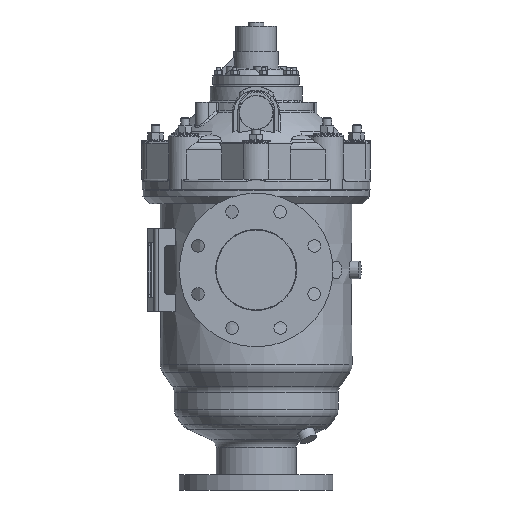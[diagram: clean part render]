
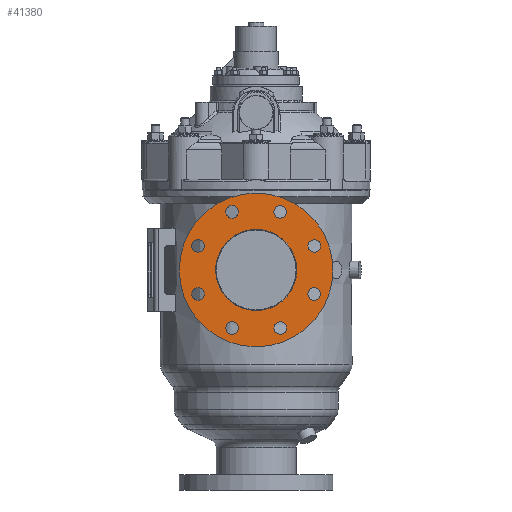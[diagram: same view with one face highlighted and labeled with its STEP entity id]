
A CAD part, front view. The second image highlights one B-rep face of the part: STEP entity #41380.
In plain terms, the highlighted planar face has unit normal (0, -1, 0) as drawn and (1, 0, 0) by its records, which use the part's own axes.
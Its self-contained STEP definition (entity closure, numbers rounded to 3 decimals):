
#41380 = ADVANCED_FACE( '', ( #50022, #50023, #50024, #50025, #50026, #50027, #50028, #50029, #50030, #50031 ), #50032, .F. );
#50022 = FACE_BOUND( '', #53701, .T. );
#50023 = FACE_BOUND( '', #53702, .T. );
#50024 = FACE_BOUND( '', #53703, .T. );
#50025 = FACE_BOUND( '', #53704, .T. );
#50026 = FACE_BOUND( '', #53705, .T. );
#50027 = FACE_BOUND( '', #53706, .T. );
#50028 = FACE_BOUND( '', #53707, .T. );
#50029 = FACE_BOUND( '', #53708, .T. );
#50030 = FACE_BOUND( '', #53709, .T. );
#50031 = FACE_OUTER_BOUND( '', #53710, .T. );
#50032 = PLANE( '', #53711 );
#53701 = EDGE_LOOP( '', ( #59142 ) );
#53702 = EDGE_LOOP( '', ( #59143 ) );
#53703 = EDGE_LOOP( '', ( #59144 ) );
#53704 = EDGE_LOOP( '', ( #59145 ) );
#53705 = EDGE_LOOP( '', ( #59146 ) );
#53706 = EDGE_LOOP( '', ( #59147 ) );
#53707 = EDGE_LOOP( '', ( #59148 ) );
#53708 = EDGE_LOOP( '', ( #59149 ) );
#53709 = EDGE_LOOP( '', ( #59150 ) );
#53710 = EDGE_LOOP( '', ( #59151 ) );
#53711 = AXIS2_PLACEMENT_3D( '', #59152, #59153, #59154 );
#59142 = ORIENTED_EDGE( '', *, *, #81687, .T. );
#59143 = ORIENTED_EDGE( '', *, *, #81686, .T. );
#59144 = ORIENTED_EDGE( '', *, *, #81699, .T. );
#59145 = ORIENTED_EDGE( '', *, *, #81700, .T. );
#59146 = ORIENTED_EDGE( '', *, *, #81701, .T. );
#59147 = ORIENTED_EDGE( '', *, *, #81702, .T. );
#59148 = ORIENTED_EDGE( '', *, *, #81703, .T. );
#59149 = ORIENTED_EDGE( '', *, *, #81704, .T. );
#59150 = ORIENTED_EDGE( '', *, *, #81697, .T. );
#59151 = ORIENTED_EDGE( '', *, *, #81698, .F. );
#59152 = CARTESIAN_POINT( '', ( 0., 0., 0. ) );
#59153 = DIRECTION( '', ( -1., 0., 0. ) );
#59154 = DIRECTION( '', ( 0., 0., 1. ) );
#81686 = EDGE_CURVE( '', #84285, #84285, #84286, .T. );
#81687 = EDGE_CURVE( '', #84287, #84287, #84288, .T. );
#81697 = EDGE_CURVE( '', #84307, #84307, #84308, .T. );
#81698 = EDGE_CURVE( '', #84309, #84309, #84310, .T. );
#81699 = EDGE_CURVE( '', #84311, #84311, #84312, .T. );
#81700 = EDGE_CURVE( '', #84313, #84313, #84314, .T. );
#81701 = EDGE_CURVE( '', #84315, #84315, #84316, .T. );
#81702 = EDGE_CURVE( '', #84317, #84317, #84318, .T. );
#81703 = EDGE_CURVE( '', #84319, #84319, #84320, .T. );
#81704 = EDGE_CURVE( '', #84321, #84321, #84322, .T. );
#84285 = VERTEX_POINT( '', #84325 );
#84286 = CIRCLE( '', #84326, 9. );
#84287 = VERTEX_POINT( '', #84327 );
#84288 = CIRCLE( '', #84328, 58. );
#84307 = VERTEX_POINT( '', #84347 );
#84308 = CIRCLE( '', #84348, 9. );
#84309 = VERTEX_POINT( '', #84349 );
#84310 = CIRCLE( '', #84350, 110. );
#84311 = VERTEX_POINT( '', #84351 );
#84312 = CIRCLE( '', #84352, 9. );
#84313 = VERTEX_POINT( '', #84353 );
#84314 = CIRCLE( '', #84354, 9. );
#84315 = VERTEX_POINT( '', #84355 );
#84316 = CIRCLE( '', #84356, 9. );
#84317 = VERTEX_POINT( '', #84357 );
#84318 = CIRCLE( '', #84358, 9. );
#84319 = VERTEX_POINT( '', #84359 );
#84320 = CIRCLE( '', #84360, 9. );
#84321 = VERTEX_POINT( '', #84361 );
#84322 = CIRCLE( '', #84362, 9. );
#84325 = CARTESIAN_POINT( '', ( 0., -40.805, -76.785 ) );
#84326 = AXIS2_PLACEMENT_3D( '', #84366, #84367, #84368 );
#84327 = CARTESIAN_POINT( '', ( 0., 0., 58. ) );
#84328 = AXIS2_PLACEMENT_3D( '', #84369, #84370, #84371 );
#84347 = CARTESIAN_POINT( '', ( 0., -83.149, -25.442 ) );
#84348 = AXIS2_PLACEMENT_3D( '', #84399, #84400, #84401 );
#84349 = CARTESIAN_POINT( '', ( 0., 0., 110. ) );
#84350 = AXIS2_PLACEMENT_3D( '', #84402, #84403, #84404 );
#84351 = CARTESIAN_POINT( '', ( 0., 25.442, -83.149 ) );
#84352 = AXIS2_PLACEMENT_3D( '', #84405, #84406, #84407 );
#84353 = CARTESIAN_POINT( '', ( 0., 76.785, -40.805 ) );
#84354 = AXIS2_PLACEMENT_3D( '', #84408, #84409, #84410 );
#84355 = CARTESIAN_POINT( '', ( 0., 83.149, 25.442 ) );
#84356 = AXIS2_PLACEMENT_3D( '', #84411, #84412, #84413 );
#84357 = CARTESIAN_POINT( '', ( 0., 40.805, 76.785 ) );
#84358 = AXIS2_PLACEMENT_3D( '', #84414, #84415, #84416 );
#84359 = CARTESIAN_POINT( '', ( 0., -25.442, 83.149 ) );
#84360 = AXIS2_PLACEMENT_3D( '', #84417, #84418, #84419 );
#84361 = CARTESIAN_POINT( '', ( 0., -76.785, 40.805 ) );
#84362 = AXIS2_PLACEMENT_3D( '', #84420, #84421, #84422 );
#84366 = CARTESIAN_POINT( '', ( 0., -34.442, -83.149 ) );
#84367 = DIRECTION( '', ( -1., 0., 0. ) );
#84368 = DIRECTION( '', ( 0., -0.707, 0.707 ) );
#84369 = CARTESIAN_POINT( '', ( 0., 0., 0. ) );
#84370 = DIRECTION( '', ( -1., 0., 0. ) );
#84371 = DIRECTION( '', ( 0., 0., 1. ) );
#84399 = CARTESIAN_POINT( '', ( 0., -83.149, -34.442 ) );
#84400 = DIRECTION( '', ( -1., 0., 0. ) );
#84401 = DIRECTION( '', ( 0., 0., 1. ) );
#84402 = CARTESIAN_POINT( '', ( 0., 0., 0. ) );
#84403 = DIRECTION( '', ( -1., 0., 0. ) );
#84404 = DIRECTION( '', ( 0., 0., 1. ) );
#84405 = CARTESIAN_POINT( '', ( 0., 34.442, -83.149 ) );
#84406 = DIRECTION( '', ( -1., 0., 0. ) );
#84407 = DIRECTION( '', ( 0., -1., 0. ) );
#84408 = CARTESIAN_POINT( '', ( 0., 83.149, -34.442 ) );
#84409 = DIRECTION( '', ( -1., 0., 0. ) );
#84410 = DIRECTION( '', ( 0., -0.707, -0.707 ) );
#84411 = CARTESIAN_POINT( '', ( 0., 83.149, 34.442 ) );
#84412 = DIRECTION( '', ( -1., 0., 0. ) );
#84413 = DIRECTION( '', ( 0., 0., -1. ) );
#84414 = CARTESIAN_POINT( '', ( 0., 34.442, 83.149 ) );
#84415 = DIRECTION( '', ( -1., 0., 0. ) );
#84416 = DIRECTION( '', ( 0., 0.707, -0.707 ) );
#84417 = CARTESIAN_POINT( '', ( 0., -34.442, 83.149 ) );
#84418 = DIRECTION( '', ( -1., 0., 0. ) );
#84419 = DIRECTION( '', ( 0., 1., 0. ) );
#84420 = CARTESIAN_POINT( '', ( 0., -83.149, 34.442 ) );
#84421 = DIRECTION( '', ( -1., 0., 0. ) );
#84422 = DIRECTION( '', ( 0., 0.707, 0.707 ) );
